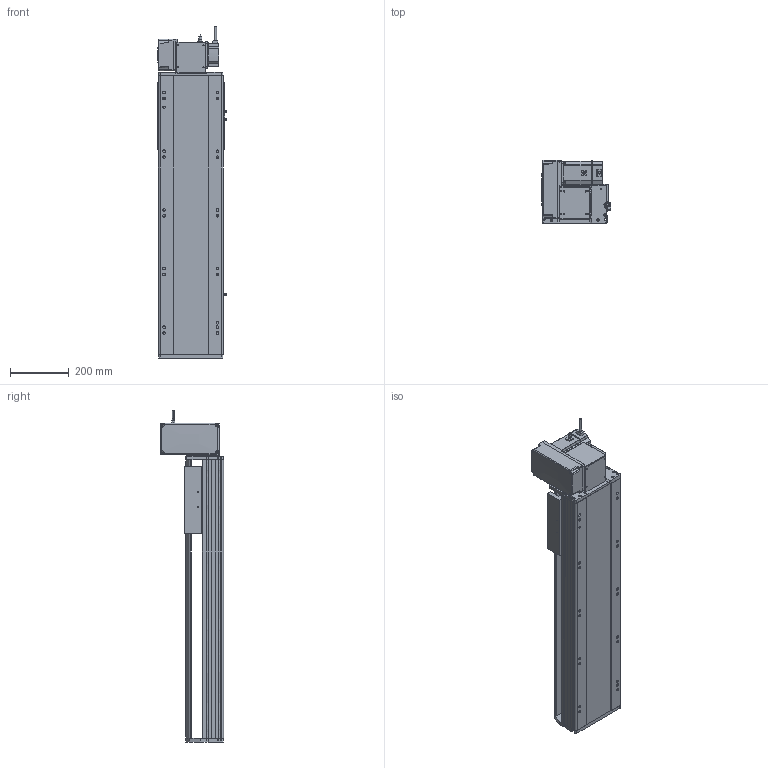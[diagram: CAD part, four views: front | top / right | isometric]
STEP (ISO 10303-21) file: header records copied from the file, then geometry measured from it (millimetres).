
FILE_DESCRIPTION (( 'STEP AP214' ), '1' );
FILE_NAME ('RTB22S-XX-600-LW-M75-C4.STEP', '2025-12-12T05:52:52', ( '' ), ( '' ), 'SwSTEP 2.0', 'SolidWorks 2018', '' );
FILE_SCHEMA (( 'AUTOMOTIVE_DESIGN' ));
Length unit declared in the file: millimetre
Products named in the file (14): RTB22S-LW-々湍釱蚾饜^RTB22S-XX-XX-LW-M75-C4; 750W萇儂^RTB22S-XX-XX-LW-M75-C4; RTB22S-XX-600-LW-M75-C4; RTB22S-GY-014--々湍釱^RTB22S-LW-々湍釱蚾饜_RTB22S-XX-XX-LW-M75-C4; OMRON EE-SX672 传感器^RTB22S-XX-XX-LW-M75-C4; RTB22S-L-004賑釱^RTB22S-XX-XX-LW-M75-C4; RTB22S-GY-017P^RTB22S-LW-々湍釱蚾饜_RTB22S-XX-XX-LW-M75-C4; RTB22S-GY-007奻裔^RTB22S-XX-XX-LW-M75-C4; RTB22S-L-011菁釱^RTB22S-XX-XX-LW-M75-C4; RTB22S-GY-001耜裔^RTB22S-XX-XX-LW-M75-C4; RTB22S-GY-005P^RTB22S-LW-々湍釱蚾饜_RTB22S-XX-XX-LW-M75-C4; RTB22S-GY-008-M75--萇儂啣^RTB22S-LW-々湍釱蚾饜_RTB22S-XX-XX-LW-M75-C4; RTB22S-GY-018P^RTB22S-LW-々湍釱蚾饜_RTB22S-XX-XX-LW-M75-C4; RTH22-GY-013外置感应片^RTB22S-XX-XX-LW-M75-C4
Assembly tree (16 placements, depth 3):
  RTB22S-XX-600-LW-M75-C4
    RTB22S-L-011菁釱^RTB22S-XX-XX-LW-M75-C4
    RTB22S-GY-001耜裔^RTB22S-XX-XX-LW-M75-C4
    750W萇儂^RTB22S-XX-XX-LW-M75-C4
    RTB22S-GY-007奻裔^RTB22S-XX-XX-LW-M75-C4
    RTB22S-L-004賑釱^RTB22S-XX-XX-LW-M75-C4
    RTH22-GY-013外置感应片^RTB22S-XX-XX-LW-M75-C4
    OMRON EE-SX672 传感器^RTB22S-XX-XX-LW-M75-C4  x3
    RTB22S-LW-々湍釱蚾饜^RTB22S-XX-XX-LW-M75-C4
      RTB22S-GY-014--々湍釱^RTB22S-LW-々湍釱蚾饜_RTB22S-XX-XX-LW-M75-C4
      RTB22S-GY-017P^RTB22S-LW-々湍釱蚾饜_RTB22S-XX-XX-LW-M75-C4  x2
      RTB22S-GY-005P^RTB22S-LW-々湍釱蚾饜_RTB22S-XX-XX-LW-M75-C4
      RTB22S-GY-008-M75--萇儂啣^RTB22S-LW-々湍釱蚾饜_RTB22S-XX-XX-LW-M75-C4
      RTB22S-GY-018P^RTB22S-LW-々湍釱蚾饜_RTB22S-XX-XX-LW-M75-C4
Bounding box: 238.5 x 215.5 x 1132.2 mm (x, y, z)
Volume: 16633180 mm3; surface area: 1749088.7 mm2
Topology: 15 solids, 15 shells, 1929 faces, 5236 edges, 3362 vertices
Faces by surface type: plane 909, cylinder 586, bspline 296, cone 126, sphere 8, torus 4
Entity records: 50794 total; most frequent: CARTESIAN_POINT 14728, ORIENTED_EDGE 7284, DIRECTION 6956, EDGE_CURVE 3642, AXIS2_PLACEMENT_3D 2434, VERTEX_POINT 2366, VECTOR 2088, LINE 2088
